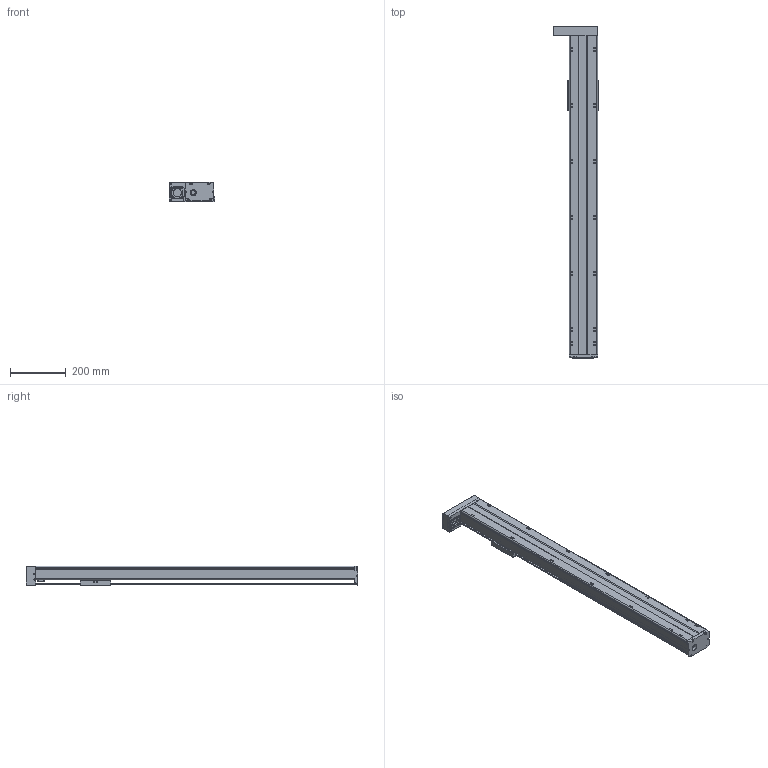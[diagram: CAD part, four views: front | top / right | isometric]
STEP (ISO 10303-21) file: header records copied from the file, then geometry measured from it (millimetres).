
FILE_DESCRIPTION(/* description */ (''),/* implementation_level */ '2;1');
FILE_NAME(/* name */ 'TKA100-FL-950_asm1.stp',/* time_stamp */ '2016-05-17T14:59:15+08:00',/* author */ (''),/* organization */ (''),/* preprocessor_version */ 'ST-DEVELOPER v15',/* originating_system */ 'SIEMENS PLM Software NX 8.5',/* authorisation */ '');
FILE_SCHEMA (('AUTOMOTIVE_DESIGN { 1 0 10303 214 3 1 1 1 }'));
Length unit declared in the file: millimetre
Products named in the file (3): 200-2; 200-1; TKA100-FL-950_asm1
Assembly tree (2 placements, depth 2):
  TKA100-FL-950_asm1
    200-1
    200-2
Bounding box: 162 x 1186 x 71 mm (x, y, z)
Volume: 2446374.8 mm3; surface area: 832628.5 mm2
Topology: 2 solids, 16 shells, 808 faces, 2114 edges, 1374 vertices
Faces by surface type: plane 319, cylinder 310, cone 125, torus 28, bspline 26
Full cylindrical faces by diameter (mm): 2.5 x6, 2.6 x8, 3.3 x11, 3.4 x4, 3.8 x8, 4.2 x23, 4.3 x4, 4.5 x10, 5 x2, 5.5 x22, 6.6 x4, 8 x4, 9 x6, 10 x8, 11 x4, 12 x6, 15.3 x1, 16 x1, 22 x1, 24 x1, 28 x2, 30 x1, 33 x1
Entity records: 29710 total; most frequent: CARTESIAN_POINT 10892, DIRECTION 3853, ORIENTED_EDGE 3648, EDGE_CURVE 1824, AXIS2_PLACEMENT_3D 1523, VERTEX_POINT 1300, EDGE_LOOP 1129, ADVANCED_FACE 808
